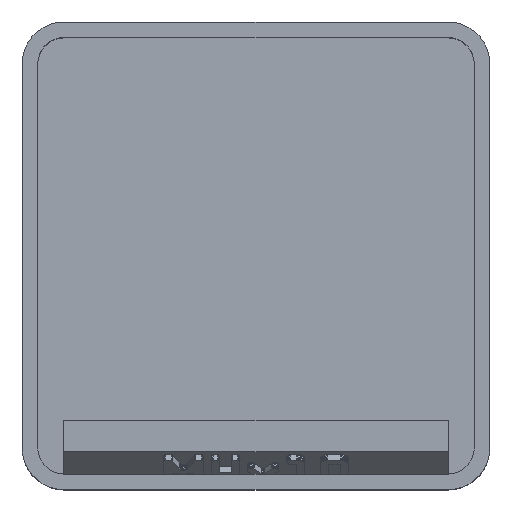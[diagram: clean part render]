
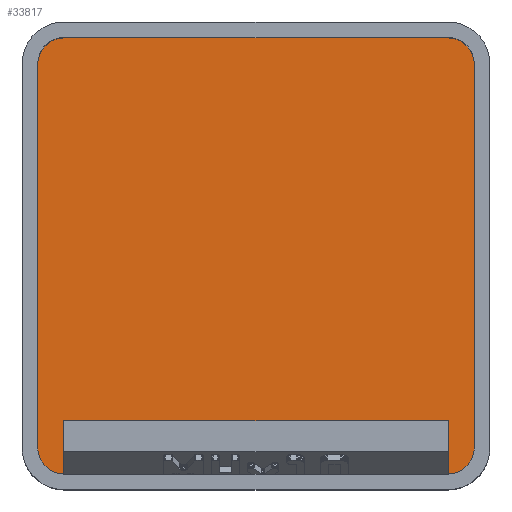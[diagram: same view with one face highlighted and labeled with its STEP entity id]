
A CAD part, top view. The second image highlights one B-rep face of the part: STEP entity #33817.
In plain terms, the highlighted planar face has unit normal (0, 0, 1).
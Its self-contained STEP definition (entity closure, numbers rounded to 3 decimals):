
#912 = PLANE('',#913);
#913 = AXIS2_PLACEMENT_3D('',#914,#915,#916);
#914 = CARTESIAN_POINT('',(-19.6,0.,25.));
#915 = DIRECTION('',(-1.,0.,0.));
#916 = DIRECTION('',(-0.,-1.,-0.));
#940 = CYLINDRICAL_SURFACE('',#941,2.35);
#941 = AXIS2_PLACEMENT_3D('',#942,#943,#944);
#942 = CARTESIAN_POINT('',(-17.25,17.25,5.95));
#943 = DIRECTION('',(-0.,-0.,1.));
#944 = DIRECTION('',(-1.,0.,0.));
#967 = PLANE('',#968);
#968 = AXIS2_PLACEMENT_3D('',#969,#970,#971);
#969 = CARTESIAN_POINT('',(0.,19.6,25.));
#970 = DIRECTION('',(0.,1.,0.));
#971 = DIRECTION('',(-1.,0.,0.));
#995 = CYLINDRICAL_SURFACE('',#996,2.35);
#996 = AXIS2_PLACEMENT_3D('',#997,#998,#999);
#997 = CARTESIAN_POINT('',(17.25,17.25,5.95));
#998 = DIRECTION('',(-0.,-0.,1.));
#999 = DIRECTION('',(-1.,0.,0.));
#1022 = PLANE('',#1023);
#1023 = AXIS2_PLACEMENT_3D('',#1024,#1025,#1026);
#1024 = CARTESIAN_POINT('',(19.6,0.,25.));
#1025 = DIRECTION('',(1.,0.,0.));
#1026 = DIRECTION('',(-0.,1.,0.));
#1050 = CYLINDRICAL_SURFACE('',#1051,2.35);
#1051 = AXIS2_PLACEMENT_3D('',#1052,#1053,#1054);
#1052 = CARTESIAN_POINT('',(17.25,-17.25,5.95));
#1053 = DIRECTION('',(-0.,-0.,1.));
#1054 = DIRECTION('',(-1.,0.,0.));
#1103 = CYLINDRICAL_SURFACE('',#1104,2.35);
#1104 = AXIS2_PLACEMENT_3D('',#1105,#1106,#1107);
#1105 = CARTESIAN_POINT('',(-17.25,-17.25,5.95));
#1106 = DIRECTION('',(-0.,-0.,1.));
#1107 = DIRECTION('',(-1.,0.,0.));
#12691 = EDGE_CURVE('',#12692,#12694,#12696,.T.);
#12692 = VERTEX_POINT('',#12693);
#12693 = CARTESIAN_POINT('',(-19.6,-17.25,5.95));
#12694 = VERTEX_POINT('',#12695);
#12695 = CARTESIAN_POINT('',(-19.6,17.25,5.95));
#12696 = SURFACE_CURVE('',#12697,(#12701,#12708),.PCURVE_S1.);
#12697 = LINE('',#12698,#12699);
#12698 = CARTESIAN_POINT('',(-19.6,0.,5.95));
#12699 = VECTOR('',#12700,1.);
#12700 = DIRECTION('',(0.,1.,0.));
#12701 = PCURVE('',#912,#12702);
#12702 = DEFINITIONAL_REPRESENTATION('',(#12703),#12707);
#12703 = LINE('',#12704,#12705);
#12704 = CARTESIAN_POINT('',(0.,-19.05));
#12705 = VECTOR('',#12706,1.);
#12706 = DIRECTION('',(-1.,0.));
#12707 = ( GEOMETRIC_REPRESENTATION_CONTEXT(2) 
PARAMETRIC_REPRESENTATION_CONTEXT() REPRESENTATION_CONTEXT('2D SPACE',''
  ) );
#12708 = PCURVE('',#12709,#12714);
#12709 = PLANE('',#12710);
#12710 = AXIS2_PLACEMENT_3D('',#12711,#12712,#12713);
#12711 = CARTESIAN_POINT('',(-17.25,-17.25,5.95));
#12712 = DIRECTION('',(0.,0.,-1.));
#12713 = DIRECTION('',(-1.,0.,0.));
#12714 = DEFINITIONAL_REPRESENTATION('',(#12715),#12719);
#12715 = LINE('',#12716,#12717);
#12716 = CARTESIAN_POINT('',(2.35,17.25));
#12717 = VECTOR('',#12718,1.);
#12718 = DIRECTION('',(0.,1.));
#12719 = ( GEOMETRIC_REPRESENTATION_CONTEXT(2) 
PARAMETRIC_REPRESENTATION_CONTEXT() REPRESENTATION_CONTEXT('2D SPACE',''
  ) );
#12766 = EDGE_CURVE('',#12767,#12692,#12769,.T.);
#12767 = VERTEX_POINT('',#12768);
#12768 = CARTESIAN_POINT('',(-17.25,-19.6,5.95));
#12769 = SURFACE_CURVE('',#12770,(#12775,#12782),.PCURVE_S1.);
#12770 = CIRCLE('',#12771,2.35);
#12771 = AXIS2_PLACEMENT_3D('',#12772,#12773,#12774);
#12772 = CARTESIAN_POINT('',(-17.25,-17.25,5.95));
#12773 = DIRECTION('',(0.,0.,-1.));
#12774 = DIRECTION('',(-1.,0.,0.));
#12775 = PCURVE('',#1103,#12776);
#12776 = DEFINITIONAL_REPRESENTATION('',(#12777),#12781);
#12777 = LINE('',#12778,#12779);
#12778 = CARTESIAN_POINT('',(6.283,0.));
#12779 = VECTOR('',#12780,1.);
#12780 = DIRECTION('',(-1.,0.));
#12781 = ( GEOMETRIC_REPRESENTATION_CONTEXT(2) 
PARAMETRIC_REPRESENTATION_CONTEXT() REPRESENTATION_CONTEXT('2D SPACE',''
  ) );
#12782 = PCURVE('',#12709,#12783);
#12783 = DEFINITIONAL_REPRESENTATION('',(#12784),#12788);
#12784 = CIRCLE('',#12785,2.35);
#12785 = AXIS2_PLACEMENT_2D('',#12786,#12787);
#12786 = CARTESIAN_POINT('',(0.,0.));
#12787 = DIRECTION('',(1.,0.));
#12788 = ( GEOMETRIC_REPRESENTATION_CONTEXT(2) 
PARAMETRIC_REPRESENTATION_CONTEXT() REPRESENTATION_CONTEXT('2D SPACE',''
  ) );
#12806 = PLANE('',#12807);
#12807 = AXIS2_PLACEMENT_3D('',#12808,#12809,#12810);
#12808 = CARTESIAN_POINT('',(0.,-19.6,25.));
#12809 = DIRECTION('',(0.,-1.,0.));
#12810 = DIRECTION('',(1.,0.,0.));
#12893 = EDGE_CURVE('',#12894,#12896,#12898,.T.);
#12894 = VERTEX_POINT('',#12895);
#12895 = CARTESIAN_POINT('',(19.6,-17.25,5.95));
#12896 = VERTEX_POINT('',#12897);
#12897 = CARTESIAN_POINT('',(17.25,-19.6,5.95));
#12898 = SURFACE_CURVE('',#12899,(#12904,#12911),.PCURVE_S1.);
#12899 = CIRCLE('',#12900,2.35);
#12900 = AXIS2_PLACEMENT_3D('',#12901,#12902,#12903);
#12901 = CARTESIAN_POINT('',(17.25,-17.25,5.95));
#12902 = DIRECTION('',(0.,0.,-1.));
#12903 = DIRECTION('',(-1.,0.,0.));
#12904 = PCURVE('',#1050,#12905);
#12905 = DEFINITIONAL_REPRESENTATION('',(#12906),#12910);
#12906 = LINE('',#12907,#12908);
#12907 = CARTESIAN_POINT('',(6.283,0.));
#12908 = VECTOR('',#12909,1.);
#12909 = DIRECTION('',(-1.,0.));
#12910 = ( GEOMETRIC_REPRESENTATION_CONTEXT(2) 
PARAMETRIC_REPRESENTATION_CONTEXT() REPRESENTATION_CONTEXT('2D SPACE',''
  ) );
#12911 = PCURVE('',#12709,#12912);
#12912 = DEFINITIONAL_REPRESENTATION('',(#12913),#12917);
#12913 = CIRCLE('',#12914,2.35);
#12914 = AXIS2_PLACEMENT_2D('',#12915,#12916);
#12915 = CARTESIAN_POINT('',(-34.5,0.));
#12916 = DIRECTION('',(1.,0.));
#12917 = ( GEOMETRIC_REPRESENTATION_CONTEXT(2) 
PARAMETRIC_REPRESENTATION_CONTEXT() REPRESENTATION_CONTEXT('2D SPACE',''
  ) );
#12991 = EDGE_CURVE('',#12894,#12992,#12994,.T.);
#12992 = VERTEX_POINT('',#12993);
#12993 = CARTESIAN_POINT('',(19.6,17.25,5.95));
#12994 = SURFACE_CURVE('',#12995,(#12999,#13006),.PCURVE_S1.);
#12995 = LINE('',#12996,#12997);
#12996 = CARTESIAN_POINT('',(19.6,0.,5.95));
#12997 = VECTOR('',#12998,1.);
#12998 = DIRECTION('',(0.,1.,0.));
#12999 = PCURVE('',#1022,#13000);
#13000 = DEFINITIONAL_REPRESENTATION('',(#13001),#13005);
#13001 = LINE('',#13002,#13003);
#13002 = CARTESIAN_POINT('',(0.,-19.05));
#13003 = VECTOR('',#13004,1.);
#13004 = DIRECTION('',(1.,0.));
#13005 = ( GEOMETRIC_REPRESENTATION_CONTEXT(2) 
PARAMETRIC_REPRESENTATION_CONTEXT() REPRESENTATION_CONTEXT('2D SPACE',''
  ) );
#13006 = PCURVE('',#12709,#13007);
#13007 = DEFINITIONAL_REPRESENTATION('',(#13008),#13012);
#13008 = LINE('',#13009,#13010);
#13009 = CARTESIAN_POINT('',(-36.85,17.25));
#13010 = VECTOR('',#13011,1.);
#13011 = DIRECTION('',(0.,1.));
#13012 = ( GEOMETRIC_REPRESENTATION_CONTEXT(2) 
PARAMETRIC_REPRESENTATION_CONTEXT() REPRESENTATION_CONTEXT('2D SPACE',''
  ) );
#13039 = EDGE_CURVE('',#13040,#12992,#13042,.T.);
#13040 = VERTEX_POINT('',#13041);
#13041 = CARTESIAN_POINT('',(17.25,19.6,5.95));
#13042 = SURFACE_CURVE('',#13043,(#13048,#13055),.PCURVE_S1.);
#13043 = CIRCLE('',#13044,2.35);
#13044 = AXIS2_PLACEMENT_3D('',#13045,#13046,#13047);
#13045 = CARTESIAN_POINT('',(17.25,17.25,5.95));
#13046 = DIRECTION('',(0.,0.,-1.));
#13047 = DIRECTION('',(-1.,0.,0.));
#13048 = PCURVE('',#995,#13049);
#13049 = DEFINITIONAL_REPRESENTATION('',(#13050),#13054);
#13050 = LINE('',#13051,#13052);
#13051 = CARTESIAN_POINT('',(6.283,0.));
#13052 = VECTOR('',#13053,1.);
#13053 = DIRECTION('',(-1.,0.));
#13054 = ( GEOMETRIC_REPRESENTATION_CONTEXT(2) 
PARAMETRIC_REPRESENTATION_CONTEXT() REPRESENTATION_CONTEXT('2D SPACE',''
  ) );
#13055 = PCURVE('',#12709,#13056);
#13056 = DEFINITIONAL_REPRESENTATION('',(#13057),#13061);
#13057 = CIRCLE('',#13058,2.35);
#13058 = AXIS2_PLACEMENT_2D('',#13059,#13060);
#13059 = CARTESIAN_POINT('',(-34.5,34.5));
#13060 = DIRECTION('',(1.,0.));
#13061 = ( GEOMETRIC_REPRESENTATION_CONTEXT(2) 
PARAMETRIC_REPRESENTATION_CONTEXT() REPRESENTATION_CONTEXT('2D SPACE',''
  ) );
#13089 = EDGE_CURVE('',#13090,#13040,#13092,.T.);
#13090 = VERTEX_POINT('',#13091);
#13091 = CARTESIAN_POINT('',(-17.25,19.6,5.95));
#13092 = SURFACE_CURVE('',#13093,(#13097,#13104),.PCURVE_S1.);
#13093 = LINE('',#13094,#13095);
#13094 = CARTESIAN_POINT('',(0.,19.6,5.95));
#13095 = VECTOR('',#13096,1.);
#13096 = DIRECTION('',(1.,0.,0.));
#13097 = PCURVE('',#967,#13098);
#13098 = DEFINITIONAL_REPRESENTATION('',(#13099),#13103);
#13099 = LINE('',#13100,#13101);
#13100 = CARTESIAN_POINT('',(0.,-19.05));
#13101 = VECTOR('',#13102,1.);
#13102 = DIRECTION('',(-1.,0.));
#13103 = ( GEOMETRIC_REPRESENTATION_CONTEXT(2) 
PARAMETRIC_REPRESENTATION_CONTEXT() REPRESENTATION_CONTEXT('2D SPACE',''
  ) );
#13104 = PCURVE('',#12709,#13105);
#13105 = DEFINITIONAL_REPRESENTATION('',(#13106),#13110);
#13106 = LINE('',#13107,#13108);
#13107 = CARTESIAN_POINT('',(-17.25,36.85));
#13108 = VECTOR('',#13109,1.);
#13109 = DIRECTION('',(-1.,0.));
#13110 = ( GEOMETRIC_REPRESENTATION_CONTEXT(2) 
PARAMETRIC_REPRESENTATION_CONTEXT() REPRESENTATION_CONTEXT('2D SPACE',''
  ) );
#13138 = EDGE_CURVE('',#12694,#13090,#13139,.T.);
#13139 = SURFACE_CURVE('',#13140,(#13145,#13152),.PCURVE_S1.);
#13140 = CIRCLE('',#13141,2.35);
#13141 = AXIS2_PLACEMENT_3D('',#13142,#13143,#13144);
#13142 = CARTESIAN_POINT('',(-17.25,17.25,5.95));
#13143 = DIRECTION('',(0.,0.,-1.));
#13144 = DIRECTION('',(-1.,0.,0.));
#13145 = PCURVE('',#940,#13146);
#13146 = DEFINITIONAL_REPRESENTATION('',(#13147),#13151);
#13147 = LINE('',#13148,#13149);
#13148 = CARTESIAN_POINT('',(6.283,0.));
#13149 = VECTOR('',#13150,1.);
#13150 = DIRECTION('',(-1.,0.));
#13151 = ( GEOMETRIC_REPRESENTATION_CONTEXT(2) 
PARAMETRIC_REPRESENTATION_CONTEXT() REPRESENTATION_CONTEXT('2D SPACE',''
  ) );
#13152 = PCURVE('',#12709,#13153);
#13153 = DEFINITIONAL_REPRESENTATION('',(#13154),#13158);
#13154 = CIRCLE('',#13155,2.35);
#13155 = AXIS2_PLACEMENT_2D('',#13156,#13157);
#13156 = CARTESIAN_POINT('',(0.,34.5));
#13157 = DIRECTION('',(1.,0.));
#13158 = ( GEOMETRIC_REPRESENTATION_CONTEXT(2) 
PARAMETRIC_REPRESENTATION_CONTEXT() REPRESENTATION_CONTEXT('2D SPACE',''
  ) );
#33817 = ADVANCED_FACE('',(#33818),#12709,.F.);
#33818 = FACE_BOUND('',#33819,.T.);
#33819 = EDGE_LOOP('',(#33820,#33821,#33822,#33843,#33844,#33845,#33846,
    #33847));
#33820 = ORIENTED_EDGE('',*,*,#12691,.F.);
#33821 = ORIENTED_EDGE('',*,*,#12766,.F.);
#33822 = ORIENTED_EDGE('',*,*,#33823,.T.);
#33823 = EDGE_CURVE('',#12767,#12896,#33824,.T.);
#33824 = SURFACE_CURVE('',#33825,(#33829,#33836),.PCURVE_S1.);
#33825 = LINE('',#33826,#33827);
#33826 = CARTESIAN_POINT('',(0.,-19.6,5.95));
#33827 = VECTOR('',#33828,1.);
#33828 = DIRECTION('',(1.,0.,0.));
#33829 = PCURVE('',#12709,#33830);
#33830 = DEFINITIONAL_REPRESENTATION('',(#33831),#33835);
#33831 = LINE('',#33832,#33833);
#33832 = CARTESIAN_POINT('',(-17.25,-2.35));
#33833 = VECTOR('',#33834,1.);
#33834 = DIRECTION('',(-1.,0.));
#33835 = ( GEOMETRIC_REPRESENTATION_CONTEXT(2) 
PARAMETRIC_REPRESENTATION_CONTEXT() REPRESENTATION_CONTEXT('2D SPACE',''
  ) );
#33836 = PCURVE('',#12806,#33837);
#33837 = DEFINITIONAL_REPRESENTATION('',(#33838),#33842);
#33838 = LINE('',#33839,#33840);
#33839 = CARTESIAN_POINT('',(0.,-19.05));
#33840 = VECTOR('',#33841,1.);
#33841 = DIRECTION('',(1.,0.));
#33842 = ( GEOMETRIC_REPRESENTATION_CONTEXT(2) 
PARAMETRIC_REPRESENTATION_CONTEXT() REPRESENTATION_CONTEXT('2D SPACE',''
  ) );
#33843 = ORIENTED_EDGE('',*,*,#12893,.F.);
#33844 = ORIENTED_EDGE('',*,*,#12991,.T.);
#33845 = ORIENTED_EDGE('',*,*,#13039,.F.);
#33846 = ORIENTED_EDGE('',*,*,#13089,.F.);
#33847 = ORIENTED_EDGE('',*,*,#13138,.F.);
